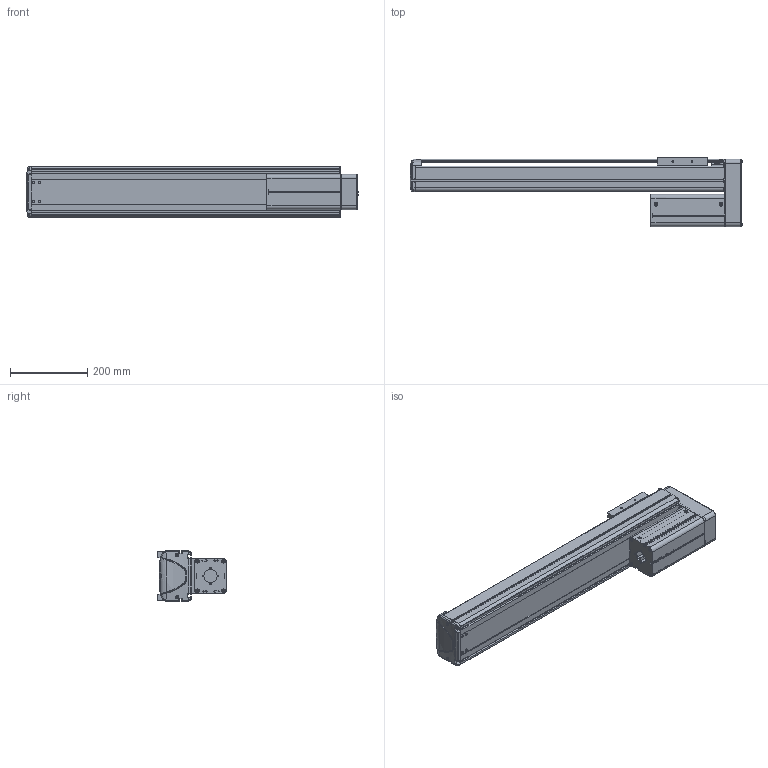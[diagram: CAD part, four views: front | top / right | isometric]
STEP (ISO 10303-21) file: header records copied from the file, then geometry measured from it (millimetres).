
FILE_DESCRIPTION((''),'2;1');
FILE_NAME('BE30E-UU-M_B-60_IGS_PRT','2017-06-17T',(' '),(''),'PRO/ENGINEER BY PARAMETRIC TECHNOLOGY CORPORATION, 2015030','PRO/ENGINEER BY PARAMETRIC TECHNOLOGY CORPORATION, 2015030','');
FILE_SCHEMA(('CONFIG_CONTROL_DESIGN'));
Length unit declared in the file: millimetre
Products named in the file (1): BE30E-UU-M_B-60_IGS_PRT
Bounding box: 861.9 x 180 x 130 mm (x, y, z)
Volume: 2969216.9 mm3; surface area: 1326014.5 mm2
Topology: 2 solids, 115 shells, 2002 faces, 5392 edges, 3500 vertices
Faces by surface type: plane 985, cylinder 819, cone 107, torus 39, bspline 28, sphere 24
Entity records: 64769 total; most frequent: CARTESIAN_POINT 13670, DIRECTION 10802, ORIENTED_EDGE 10275, EDGE_CURVE 5354, AXIS2_PLACEMENT_3D 3792, VERTEX_POINT 3500, VECTOR 3218, LINE 3218
